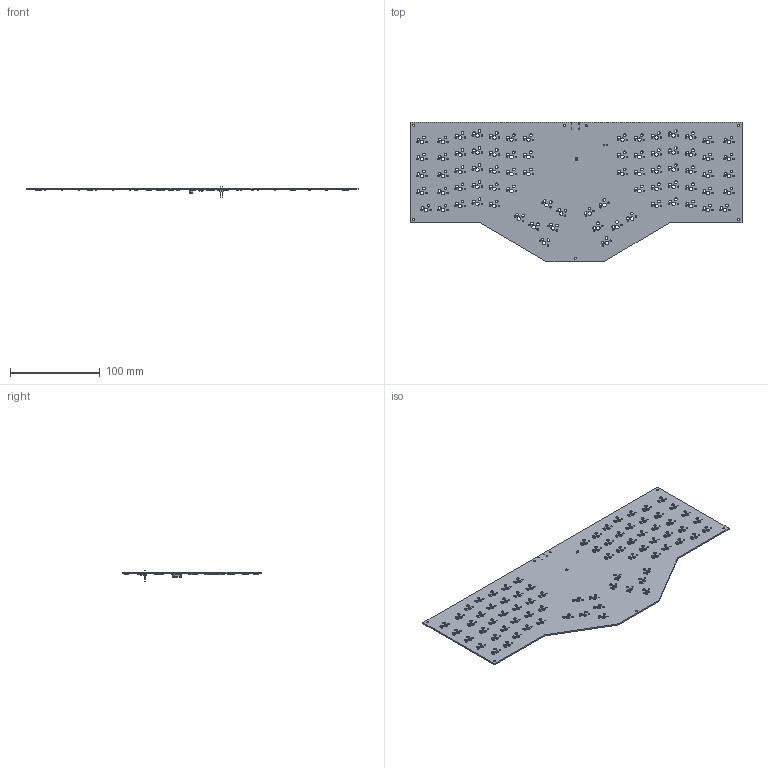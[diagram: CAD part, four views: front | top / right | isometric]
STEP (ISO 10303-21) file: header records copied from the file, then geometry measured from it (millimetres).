
FILE_DESCRIPTION(('KiCad electronic assembly'),'2;1');
FILE_NAME('arisu.step','2023-05-30T16:36:53',('Pcbnew'),('Kicad'), 'Open CASCADE STEP processor 7.6','KiCad to STEP converter','Unknown' );
FILE_SCHEMA(('AUTOMOTIVE_DESIGN { 1 0 10303 214 1 1 1 1 }'));
Length unit declared in the file: millimetre
Products named in the file (20): arisu 1; D_SOD-123; SOLID; LED_WS2812B_PLCC4_5.0x5.0mm_P3.2mm; C_0402_1005Metric; R_0805_2012Metric; QFN-56-1EP_7x7mm_P0.4mm_EP5.6x5.6mm; Crystal_SMD_HC49-SD; C_0805_2012Metric; PinHeader_1x02_P2.54mm_Vertical; SOT-223; arisu PCB
Assembly tree (122 placements, depth 3):
  arisu 1
    D_SOD-123  x76
      SOLID
    LED_WS2812B_PLCC4_5.0x5.0mm_P3.2mm  x8
      SOLID
    C_0402_1005Metric  x19
      SOLID
    R_0805_2012Metric  x2
      SOLID
    QFN-56-1EP_7x7mm_P0.4mm_EP5.6x5.6mm
      SOLID
    Crystal_SMD_HC49-SD
      SOLID
    C_0805_2012Metric  x3
      SOLID
    PinHeader_1x02_P2.54mm_Vertical
      SOLID
    SOT-223
      SOLID
    arisu PCB
Bounding box: 370.5 x 156 x 11.54 mm (x, y, z)
Volume: 72296.1 mm3; surface area: 100090.3 mm2
Topology: 113 solids, 113 shells, 7317 faces, 18110 edges, 11122 vertices
Faces by surface type: plane 3774, bspline 1992, cylinder 1541, cone 8, torus 2
Full cylindrical faces by diameter (mm): 0.35 x9, 0.5 x1, 1 x2, 1.75 x152, 2.2 x7, 3.05 x152, 3.333 x8, 4 x76
Entity records: 96612 total; most frequent: CARTESIAN_POINT 20612, DIRECTION 13061, LINE 8205, VECTOR 8205, ORIENTED_EDGE 6990, PCURVE 6990, DEFINITIONAL_REPRESENTATION 6990, EDGE_CURVE 3495
